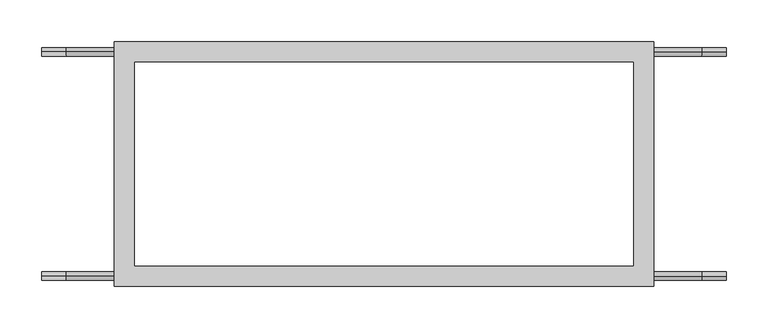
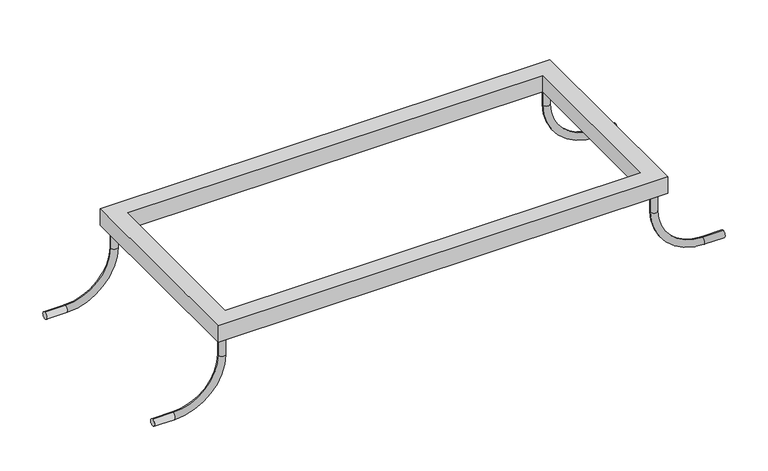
"""IFC4 building model written with IfcOpenShell, lengths in millimetres: electric distribution board geometry, DKC_Рама для крепления к полу : DKC_Рама для крепления к полу."""

from ifc_helpers import new_model, si_unit, point, frame, origin, origin_with_axes, place, context, project, spatial, polyline, circle_curve, ellipse_curve, trimmed, outline, extrude, source, transform, mapped, element, save
from ifc_brep_helpers import plane_surface, cylinder_surface, revolved_surface, advanced_brep


def electric_distribution_board_356db453(model_context):
    return source(origin(), model_context, "Body", "SolidModel", [
        advanced_brep(
        [(-317.5, -30.0, 0.0), (-307.5, -30.0, 0.0), (-317.5, -30.0, -30.0), (-307.5, -30.0, -30.0), (-382.5, -30.0, -105.0), (-382.5, -30.0, -95.0), (-412.5, -30.0, -95.0), (-412.5, -30.0, -105.0)],
        [
            (0, 1, circle_curve(frame((-312.5, -30.0, 0.0), z_axis=(0.0, 0.0, 1.0), x_axis=(1.0, 0.0, 0.0)), 5.0)),
            (1, 0, circle_curve(frame((-312.5, -30.0, 0.0), z_axis=(0.0, 0.0, 1.0), x_axis=(1.0, 0.0, 0.0)), 5.0)),
            (0, 2),
            (2, 3, circle_curve(frame((-312.5, -30.0, -30.0), z_axis=(0.0, 0.0, 1.0), x_axis=(1.0, 0.0, 0.0)), 5.0)),
            (3, 1),
            (3, 2, circle_curve(frame((-312.5, -30.0, -30.0), z_axis=(0.0, 0.0, 1.0), x_axis=(1.0, 0.0, 0.0)), 5.0)),
            (4, 3, circle_curve(frame((-382.5, -30.0, -30.0), z_axis=(0.0, -1.0, 0.0), x_axis=(1.0, 0.0, 0.0)), 75.0)),
            (2, 5, circle_curve(frame((-382.5, -30.0, -30.0), z_axis=(0.0, 1.0, 0.0), x_axis=(1.0, 0.0, 0.0)), 65.0)),
            (5, 4, circle_curve(frame((-382.5, -30.0, -100.0), z_axis=(1.0, 0.0, 0.0), x_axis=(0.0, 0.0, -1.0)), 5.0)),
            (4, 5, circle_curve(frame((-382.5, -30.0, -100.0), z_axis=(1.0, 0.0, 0.0), x_axis=(0.0, 0.0, -1.0)), 5.0)),
            (6, 7, circle_curve(frame((-412.5, -30.0, -100.0), z_axis=(-1.0, 0.0, 0.0), x_axis=(0.0, 0.0, -1.0)), 5.0)),
            (7, 6, circle_curve(frame((-412.5, -30.0, -100.0), z_axis=(-1.0, 0.0, 0.0), x_axis=(0.0, 0.0, -1.0)), 5.0)),
            (5, 6),
            (7, 4),
        ],
        [
            plane_surface(frame((-312.5, -30.0, 0.0), z_axis=(0.0, 0.0, 1.0), x_axis=(0.0, -1.0, 0.0))),
            cylinder_surface(frame((-312.5, -30.0, 0.0), z_axis=(0.0, 0.0, 1.0), x_axis=(1.0, 0.0, 0.0)), 5.0),
            revolved_surface(trimmed(ellipse_curve(frame((-312.5, -30.0, -30.0), z_axis=(0.0, 0.0, 1.0), x_axis=(1.0, 0.0, 0.0)), 5.0, 5.0), [point((-317.5, -30.0, -30.0))], [point((-307.5, -30.0, -30.0))], True, "CARTESIAN"), (-382.5, -30.0, -30.0), (0.0, 1.0, 0.0)),
            revolved_surface(trimmed(ellipse_curve(frame((-312.5, -30.0, -30.0), z_axis=(0.0, 0.0, 1.0), x_axis=(1.0, 0.0, 0.0)), 5.0, 5.0), [point((-307.5, -30.0, -30.0))], [point((-317.5, -30.0, -30.0))], True, "CARTESIAN"), (-382.5, -30.0, -30.0), (0.0, 1.0, 0.0)),
            plane_surface(frame((-412.5, -30.0, -100.0), z_axis=(-1.0, 0.0, 0.0), x_axis=(0.0, -1.0, 0.0))),
            cylinder_surface(frame((-382.5, -30.0, -100.0), z_axis=(1.0, 0.0, 0.0), x_axis=(0.0, 0.0, -1.0)), 5.0),
        ],
        [
            (0, [[1, 2]]),
            (1, [[-1, 3, 4, 5]]),
            (1, [[-2, -5, 6, -3]]),
            (2, [[7, -4, 8, 9]]),
            (3, [[-8, -6, -7, 10]]),
            (4, [[11, 12]]),
            (5, [[-9, 13, -12, 14]]),
            (5, [[-10, -14, -11, -13]]),
        ],
    ),
        advanced_brep(
        [(-317.5, -300.0, 0.0), (-307.5, -300.0, 0.0), (-317.5, -300.0, -30.0), (-307.5, -300.0, -30.0), (-382.5, -300.0, -105.0), (-382.5, -300.0, -95.0), (-412.5, -300.0, -95.0), (-412.5, -300.0, -105.0)],
        [
            (0, 1, circle_curve(frame((-312.5, -300.0, 0.0), z_axis=(0.0, 0.0, 1.0), x_axis=(1.0000000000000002, 0.0, 0.0)), 5.0)),
            (1, 0, circle_curve(frame((-312.5, -300.0, 0.0), z_axis=(0.0, 0.0, 1.0), x_axis=(1.0000000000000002, 0.0, 0.0)), 5.0)),
            (0, 2),
            (2, 3, circle_curve(frame((-312.5, -300.0, -30.0), z_axis=(0.0, 0.0, 1.0), x_axis=(1.0000000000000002, 0.0, 0.0)), 5.0)),
            (3, 1),
            (3, 2, circle_curve(frame((-312.5, -300.0, -30.0), z_axis=(0.0, 0.0, 1.0), x_axis=(1.0000000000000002, 0.0, 0.0)), 5.0)),
            (4, 3, circle_curve(frame((-382.5, -300.0, -30.0), z_axis=(0.0, -1.0, 0.0), x_axis=(1.0000000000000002, 0.0, 0.0)), 75.0)),
            (2, 5, circle_curve(frame((-382.5, -300.0, -30.0), z_axis=(0.0, 1.0, 0.0), x_axis=(1.0000000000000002, 0.0, 0.0)), 65.0)),
            (5, 4, circle_curve(frame((-382.5, -300.0, -100.0), z_axis=(1.0000000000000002, 0.0, 0.0), x_axis=(0.0, 0.0, -1.0)), 5.0)),
            (4, 5, circle_curve(frame((-382.5, -300.0, -100.0), z_axis=(1.0000000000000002, 0.0, 0.0), x_axis=(0.0, 0.0, -1.0)), 5.0)),
            (6, 7, circle_curve(frame((-412.5, -300.0, -100.0), z_axis=(-1.0, 0.0, 0.0), x_axis=(0.0, 0.0, -1.0)), 5.0)),
            (7, 6, circle_curve(frame((-412.5, -300.0, -100.0), z_axis=(-1.0, 0.0, 0.0), x_axis=(0.0, 0.0, -1.0)), 5.0)),
            (5, 6),
            (7, 4),
        ],
        [
            plane_surface(frame((-312.5, -300.0, 0.0), z_axis=(0.0, 0.0, 1.0), x_axis=(0.0, -1.0, 0.0))),
            cylinder_surface(frame((-312.5, -300.0, 0.0), z_axis=(0.0, 0.0, 1.0), x_axis=(1.0000000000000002, 0.0, 0.0)), 5.0),
            revolved_surface(trimmed(ellipse_curve(frame((-312.5, -300.0, -30.0), z_axis=(0.0, 0.0, 1.0), x_axis=(1.0000000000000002, 0.0, 0.0)), 5.0, 5.0), [point((-317.5, -300.0, -30.0))], [point((-307.5, -300.0, -30.0))], True, "CARTESIAN"), (-382.5, -300.0, -30.0), (0.0, 1.0000000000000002, 0.0)),
            revolved_surface(trimmed(ellipse_curve(frame((-312.5, -300.0, -30.0), z_axis=(0.0, 0.0, 1.0), x_axis=(1.0000000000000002, 0.0, 0.0)), 5.0, 5.0), [point((-307.5, -300.0, -30.0))], [point((-317.5, -300.0, -30.0))], True, "CARTESIAN"), (-382.5, -300.0, -30.0), (0.0, 1.0000000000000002, 0.0)),
            plane_surface(frame((-412.5, -300.0, -100.0), z_axis=(-1.0, 0.0, 0.0), x_axis=(0.0, -1.0, 0.0))),
            cylinder_surface(frame((-382.5, -300.0, -100.0), z_axis=(1.0000000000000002, 0.0, 0.0), x_axis=(0.0, 0.0, -1.0)), 5.0),
        ],
        [
            (0, [[1, 2]]),
            (1, [[-1, 3, 4, 5]]),
            (1, [[-2, -5, 6, -3]]),
            (2, [[7, -4, 8, 9]]),
            (3, [[-8, -6, -7, 10]]),
            (4, [[11, 12]]),
            (5, [[-9, 13, -12, 14]]),
            (5, [[-10, -14, -11, -13]]),
        ],
    ),
        advanced_brep(
        [(317.5, -300.0, 0.0), (307.5, -300.0, 0.0), (317.5, -300.0, -30.0), (307.5, -300.0, -30.0), (382.5, -300.0, -105.0), (382.5, -300.0, -95.0), (412.5, -300.0, -95.0), (412.5, -300.0, -105.0)],
        [
            (0, 1, circle_curve(frame((312.5, -300.0, 0.0), z_axis=(0.0, 0.0, 1.0), x_axis=(-1.0, 0.0, 0.0)), 5.0)),
            (1, 0, circle_curve(frame((312.5, -300.0, 0.0), z_axis=(0.0, 0.0, 1.0), x_axis=(-1.0, 0.0, 0.0)), 5.0)),
            (0, 2),
            (2, 3, circle_curve(frame((312.5, -300.0, -30.0), z_axis=(0.0, 0.0, 1.0), x_axis=(-1.0, 0.0, 0.0)), 5.0)),
            (3, 1),
            (3, 2, circle_curve(frame((312.5, -300.0, -30.0), z_axis=(0.0, 0.0, 1.0), x_axis=(-1.0, 0.0, 0.0)), 5.0)),
            (4, 3, circle_curve(frame((382.5, -300.0, -30.0), z_axis=(0.0, 1.0, 0.0), x_axis=(-1.0, 0.0, 0.0)), 75.0)),
            (2, 5, circle_curve(frame((382.5, -300.0, -30.0), z_axis=(0.0, -1.0, 0.0), x_axis=(-1.0, 0.0, 0.0)), 65.0)),
            (5, 4, circle_curve(frame((382.5, -300.0, -100.0), z_axis=(-1.0, 0.0, 0.0), x_axis=(0.0, 0.0, -1.0)), 5.0)),
            (4, 5, circle_curve(frame((382.5, -300.0, -100.0), z_axis=(-1.0, 0.0, 0.0), x_axis=(0.0, 0.0, -1.0)), 5.0)),
            (6, 7, circle_curve(frame((412.5, -300.0, -100.0), z_axis=(1.0, 0.0, 0.0), x_axis=(0.0, 0.0, -1.0)), 5.0)),
            (7, 6, circle_curve(frame((412.5, -300.0, -100.0), z_axis=(1.0, 0.0, 0.0), x_axis=(0.0, 0.0, -1.0)), 5.0)),
            (5, 6),
            (7, 4),
        ],
        [
            plane_surface(frame((312.5, -300.0, 0.0), z_axis=(0.0, 0.0, 1.0), x_axis=(0.0, 1.0, 0.0))),
            cylinder_surface(frame((312.5, -300.0, 0.0), z_axis=(0.0, 0.0, 1.0), x_axis=(-1.0, 0.0, 0.0)), 5.0),
            revolved_surface(trimmed(ellipse_curve(frame((312.5, -300.0, -30.0), z_axis=(0.0, 0.0, 1.0), x_axis=(-1.0, 0.0, 0.0)), 5.0, 5.0), [point((317.5, -300.0, -30.0))], [point((307.5, -300.0, -30.0))], True, "CARTESIAN"), (382.5, -300.0, -30.0), (0.0, -1.0, 0.0)),
            revolved_surface(trimmed(ellipse_curve(frame((312.5, -300.0, -30.0), z_axis=(0.0, 0.0, 1.0), x_axis=(-1.0, 0.0, 0.0)), 5.0, 5.0), [point((307.5, -300.0, -30.0))], [point((317.5, -300.0, -30.0))], True, "CARTESIAN"), (382.5, -300.0, -30.0), (0.0, -1.0, 0.0)),
            plane_surface(frame((412.5, -300.0, -100.0), z_axis=(1.0, 0.0, 0.0), x_axis=(0.0, 1.0, 0.0))),
            cylinder_surface(frame((382.5, -300.0, -100.0), z_axis=(-1.0, 0.0, 0.0), x_axis=(0.0, 0.0, -1.0)), 5.0),
        ],
        [
            (0, [[1, 2]]),
            (1, [[-1, 3, 4, 5]]),
            (1, [[-2, -5, 6, -3]]),
            (2, [[7, -4, 8, 9]]),
            (3, [[-8, -6, -7, 10]]),
            (4, [[11, 12]]),
            (5, [[-9, 13, -12, 14]]),
            (5, [[-10, -14, -11, -13]]),
        ],
    ),
        advanced_brep(
        [(317.5, -30.0, 0.0), (307.5, -30.0, 0.0), (317.5, -30.0, -30.0), (307.5, -30.0, -30.0), (382.5, -30.0, -105.0), (382.5, -30.0, -95.0), (412.5, -30.0, -95.0), (412.5, -30.0, -105.0)],
        [
            (0, 1, circle_curve(frame((312.5, -30.0, 0.0), z_axis=(0.0, 0.0, 1.0), x_axis=(-1.0, 0.0, 0.0)), 5.0)),
            (1, 0, circle_curve(frame((312.5, -30.0, 0.0), z_axis=(0.0, 0.0, 1.0), x_axis=(-1.0, 0.0, 0.0)), 5.0)),
            (0, 2),
            (2, 3, circle_curve(frame((312.5, -30.0, -30.0), z_axis=(0.0, 0.0, 1.0), x_axis=(-1.0, 0.0, 0.0)), 5.0)),
            (3, 1),
            (3, 2, circle_curve(frame((312.5, -30.0, -30.0), z_axis=(0.0, 0.0, 1.0), x_axis=(-1.0, 0.0, 0.0)), 5.0)),
            (4, 3, circle_curve(frame((382.5, -30.0, -30.0), z_axis=(0.0, 1.0, 0.0), x_axis=(-1.0, 0.0, 0.0)), 75.0)),
            (2, 5, circle_curve(frame((382.5, -30.0, -30.0), z_axis=(0.0, -1.0, 0.0), x_axis=(-1.0, 0.0, 0.0)), 65.0)),
            (5, 4, circle_curve(frame((382.5, -30.0, -100.0), z_axis=(-1.0, 0.0, 0.0), x_axis=(0.0, 0.0, -1.0)), 5.0)),
            (4, 5, circle_curve(frame((382.5, -30.0, -100.0), z_axis=(-1.0, 0.0, 0.0), x_axis=(0.0, 0.0, -1.0)), 5.0)),
            (6, 7, circle_curve(frame((412.5, -30.0, -100.0), z_axis=(1.0, 0.0, 0.0), x_axis=(0.0, 0.0, -1.0)), 5.0)),
            (7, 6, circle_curve(frame((412.5, -30.0, -100.0), z_axis=(1.0, 0.0, 0.0), x_axis=(0.0, 0.0, -1.0)), 5.0)),
            (5, 6),
            (7, 4),
        ],
        [
            plane_surface(frame((312.5, -30.0, 0.0), z_axis=(0.0, 0.0, 1.0), x_axis=(0.0, 1.0, 0.0))),
            cylinder_surface(frame((312.5, -30.0, 0.0), z_axis=(0.0, 0.0, 1.0), x_axis=(-1.0, 0.0, 0.0)), 5.0),
            revolved_surface(trimmed(ellipse_curve(frame((312.5, -30.0, -30.0), z_axis=(0.0, 0.0, 1.0), x_axis=(-1.0, 0.0, 0.0)), 5.0, 5.0), [point((317.5, -30.0, -30.0))], [point((307.5, -30.0, -30.0))], True, "CARTESIAN"), (382.5, -30.0, -30.0), (0.0, -1.0, 0.0)),
            revolved_surface(trimmed(ellipse_curve(frame((312.5, -30.0, -30.0), z_axis=(0.0, 0.0, 1.0), x_axis=(-1.0, 0.0, 0.0)), 5.0, 5.0), [point((307.5, -30.0, -30.0))], [point((317.5, -30.0, -30.0))], True, "CARTESIAN"), (382.5, -30.0, -30.0), (0.0, -1.0, 0.0)),
            plane_surface(frame((412.5, -30.0, -100.0), z_axis=(1.0, 0.0, 0.0), x_axis=(0.0, 1.0, 0.0))),
            cylinder_surface(frame((382.5, -30.0, -100.0), z_axis=(-1.0, 0.0, 0.0), x_axis=(0.0, 0.0, -1.0)), 5.0),
        ],
        [
            (0, [[1, 2]]),
            (1, [[-1, 3, 4, 5]]),
            (1, [[-2, -5, 6, -3]]),
            (2, [[7, -4, 8, 9]]),
            (3, [[-8, -6, -7, 10]]),
            (4, [[11, 12]]),
            (5, [[-9, 13, -12, 14]]),
            (5, [[-10, -14, -11, -13]]),
        ],
    ),
        extrude(outline(polyline([(325.0, -312.5), (-325.0, -312.5), (-325.0, -17.5), (325.0, -17.5), (325.0, -312.5)]), holes=[polyline([(300.0, -42.5), (-300.0, -42.5), (-300.0, -287.5), (300.0, -287.5), (300.0, -42.5)])]), origin_with_axes(), (0.0, 0.0, 1.0), 25.0),
    ])


if __name__ == "__main__":
    model = new_model("IFC4")
    model_context = context("Model", 3, world=origin())
    ifc_project = project(units=[si_unit("LENGTHUNIT", "METRE", prefix="MILLI")], contexts=[model_context])
    site = spatial("IfcSite", under=ifc_project)
    building = spatial("IfcBuilding", under=site)
    placement = place(None, origin())
    electric_distribution_board_shape = electric_distribution_board_356db453(model_context)
    element("IfcElectricDistributionBoard", 1, ObjectType="DKC_Рама для крепления к полу : DKC_Рама для крепления к полу", at=placement, inside=building, context=model_context, shape_type="MappedRepresentation", body=[
        mapped(electric_distribution_board_shape, transform((0.0, 0.0, 0.0), x_axis=(1.0, 0.0, 0.0), y_axis=(0.0, 1.0, 0.0), z_axis=(0.0, 0.0, 1.0))),
    ])
    save(model, "model.ifc")
